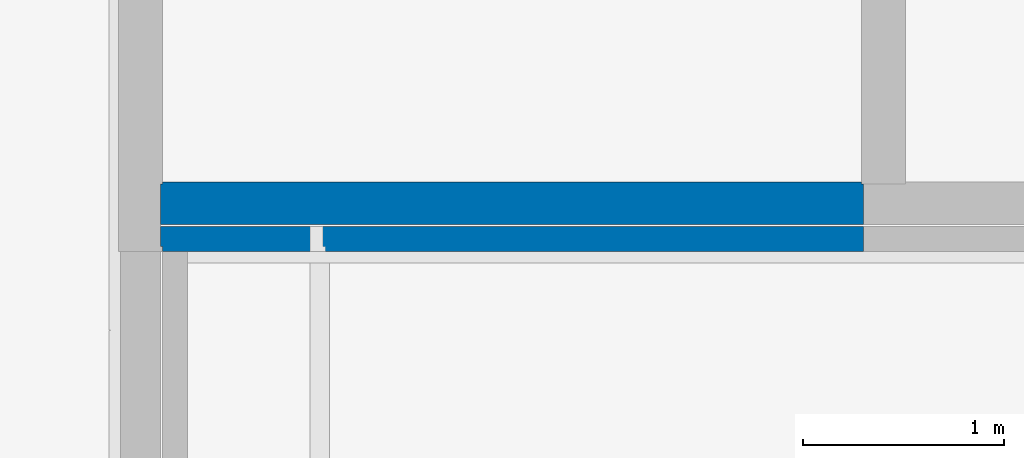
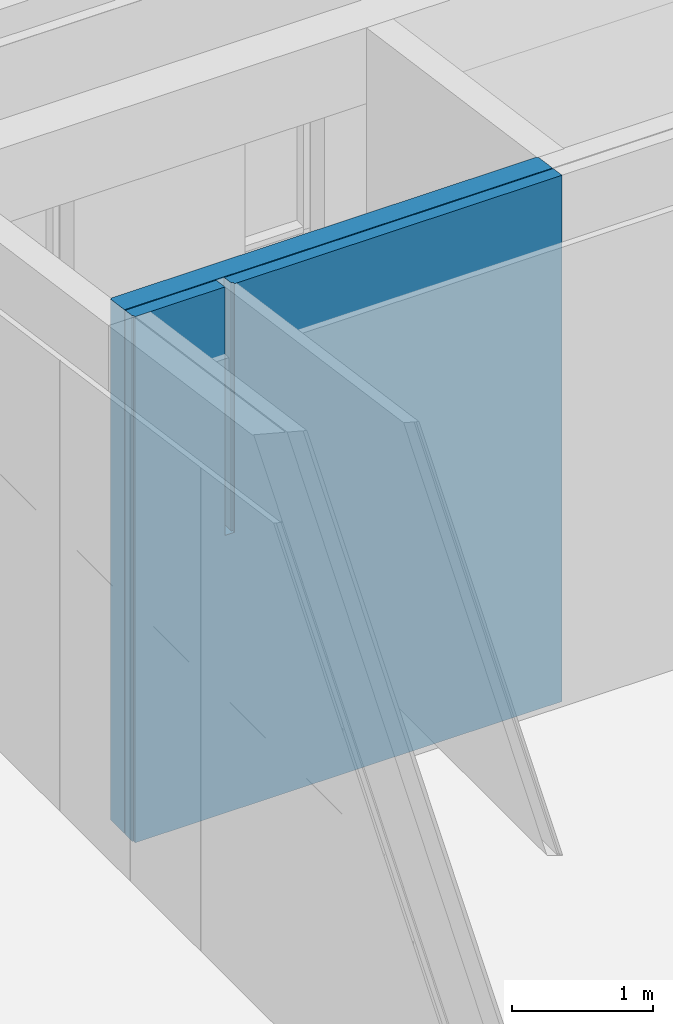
# One storey, part 128 of 246: 1 wall.
"""IFC2X3 building model written with IfcOpenShell, lengths in millimetres."""

from ifc_helpers import new_model, entity, si_unit, converted_unit, derived_unit, money_unit, direction, frame, origin_with_axes, place, context, subcontext, project, spatial, faceted_brep, material, material_list, type_object, element, save


model = new_model("IFC2X3")

# Units and contexts
model_context = context("Model", 3, precision=0.01, world=origin_with_axes(), true_north=direction((0.0, 1.0)))
body_context = subcontext(model_context, "Body", "Model", "MODEL_VIEW")
ifc_project = project(units=[si_unit("LENGTHUNIT", "METRE", prefix="MILLI"), si_unit("AREAUNIT", "SQUARE_METRE"), si_unit("VOLUMEUNIT", "CUBIC_METRE"), converted_unit("PLANEANGLEUNIT", "DEGREE", entity("IfcPlaneAngleMeasure", 0.0174532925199), si_unit("PLANEANGLEUNIT", "RADIAN"), dimensions=[0, 0, 0, 0, 0, 0, 0]), si_unit("SOLIDANGLEUNIT", "STERADIAN"), money_unit("EUR"), converted_unit("TIMEUNIT", "Year", entity("IfcTimeMeasure", 31556926.0), si_unit("TIMEUNIT", "SECOND"), dimensions=[0, 0, 1, 0, 0, 0, 0]), si_unit("MASSUNIT", "GRAM", prefix="KILO"), si_unit("THERMODYNAMICTEMPERATUREUNIT", "DEGREE_CELSIUS"), si_unit("LUMINOUSINTENSITYUNIT", "LUMEN"), si_unit("ENERGYUNIT", "JOULE", prefix="MEGA"), derived_unit("THERMALCONDUCTANCEUNIT", [(si_unit("POWERUNIT", "WATT"), 1), (si_unit("LENGTHUNIT", "METRE"), -1), (si_unit("THERMODYNAMICTEMPERATUREUNIT", "KELVIN"), -1)]), derived_unit("SPECIFICHEATCAPACITYUNIT", [(si_unit("ENERGYUNIT", "JOULE"), 1), (si_unit("MASSUNIT", "GRAM", prefix="KILO"), -1), (si_unit("THERMODYNAMICTEMPERATUREUNIT", "KELVIN"), -1)]), derived_unit("MASSDENSITYUNIT", [(si_unit("MASSUNIT", "GRAM", prefix="KILO"), 1), (si_unit("VOLUMEUNIT", "CUBIC_METRE"), -1)])], contexts=[model_context])

# Site, building, storey
site_placement = place(None, origin_with_axes())
site = spatial("IfcSite", under=ifc_project, at=site_placement, Name="L.Koidula tn 11b", CompositionType="ELEMENT")
building_placement = place(site_placement, origin_with_axes())
building = spatial("IfcBuilding", under=site, at=building_placement, Name="Rakvere Riigigümnaasium", CompositionType="ELEMENT")
storey_placement = place(building_placement, origin_with_axes())
storey = spatial("IfcBuildingStorey", under=building, at=storey_placement, Name="1.korrus 0,00", CompositionType="ELEMENT", Elevation=0.0)

# Wall
ifc_material_1 = material(Name="Krohv")
ifc_material_2 = material(Name="Betoon element / plaat")
ifc_material_3 = material(Name="mineraalvill+karkass")
ifc_material_4 = material(Name="Kipsplaat")
ifc_material_list = material_list([ifc_material_1, ifc_material_2, ifc_material_3, ifc_material_4])
wall_type = type_object("IfcWallType", Name="SS-02-1 345", PredefinedType="NOTDEFINED")
wall_placement = place(storey_placement, frame((36919.9971542, 68845.4313013, 0.0), z_axis=(0.0, 0.0, 1.0), x_axis=(1.0, 0.0, 0.0)))
element("IfcWall", 1, at=wall_placement, inside=storey, type_object=wall_type, material=ifc_material_list, Name="Sisesein", context=body_context, shape_type="Brep", body=[
    faceted_brep([(210.0, 345.0, 4499.68319967), (3690.03769882, 345.0, 4499.68318), (3690.03769882, 345.0, 0.0), (210.0, 345.0, 0.0), (3690.03769882, 335.0, 4501.10639076), (210.0, 335.0, 4501.10641042), (3690.03769882, 335.0, 0.0), (210.0, 335.0, 0.0)], [[[0, 1, 2, 3]], [[4, 1, 0, 5]], [[1, 4, 6, 2]], [[3, 2, 6, 7]], [[5, 0, 3, 7]], [[4, 5, 7, 6]]]),
    faceted_brep([(200.0, 335.0, 4501.10641048), (3700.03769882, 335.0, 4501.10639071), (3700.03769882, 335.0, 0.0), (200.0, 335.0, 0.0), (3700.03769882, 135.0, 4529.57060585), (200.0, 135.0, 4529.57062562), (3700.03769882, 135.0, 0.0), (200.0, 135.0, 0.0)], [[[0, 1, 2, 3]], [[4, 1, 0, 5]], [[1, 4, 6, 2]], [[6, 7, 3, 2]], [[5, 0, 3, 7]], [[4, 5, 7, 6]]]),
    faceted_brep([(1009.5028369, 125.0, 4530.9938318), (3700.03769882, 125.0, 4530.9938166), (3700.03769882, 125.0, 0.0), (200.0, 125.0, 0.0), (200.0, 125.0, 4530.99383638), (943.502836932, 125.0, 4530.99383218), (943.502836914, 125.0, 2400.0), (1009.50283691, 125.0, 2400.0), (3700.03769882, 25.0, 4545.22592417), (1009.50283689, 25.0, 4545.22593938), (3700.03769882, 25.0, 0.0), (200.0, 25.0, 0.0), (200.0, 25.0, 4545.22594395), (943.502836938, 25.0, 4545.22593975), (943.502836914, 25.0, 2400.0), (1009.50283691, 25.0, 2400.0)], [[[0, 1, 2, 3, 4, 5, 6, 7]], [[8, 1, 0, 9]], [[1, 8, 10, 2]], [[10, 11, 3, 2]], [[12, 4, 3, 11]], [[13, 5, 4, 12]], [[5, 13, 14, 6]], [[15, 7, 6, 14]], [[9, 0, 7, 15]], [[8, 9, 15, 14, 13, 12, 11, 10]]]),
    faceted_brep([(1022.00283691, 25.0, 4545.2259393), (3700.03769882, 25.0, 4545.22592417), (3700.03769882, 25.0, 0.0), (210.0, 25.0, 0.0), (210.0, 25.0, 4545.22594389), (943.502836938, 25.0, 4545.22593975), (943.502836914, 25.0, 2400.0), (1022.00283691, 25.0, 2400.0), (3700.03769882, 0.0, 4548.78395107), (1022.00283691, 0.0, 4548.7839662), (3700.03769882, 0.0, 0.0), (210.0, 0.0, 0.0), (210.0, 0.0, 4548.78397079), (943.502836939, 0.0, 4548.78396664), (943.502836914, 0.0, 2400.0), (1022.00283691, 0.0, 2400.0)], [[[0, 1, 2, 3, 4, 5, 6, 7]], [[8, 1, 0, 9]], [[1, 8, 10, 2]], [[10, 11, 3, 2]], [[12, 4, 3, 11]], [[13, 5, 4, 12]], [[5, 13, 14, 6]], [[14, 15, 7, 6]], [[9, 0, 7, 15]], [[8, 9, 15, 14, 13, 12, 11, 10]]]),
])

save(model, "model.ifc")
